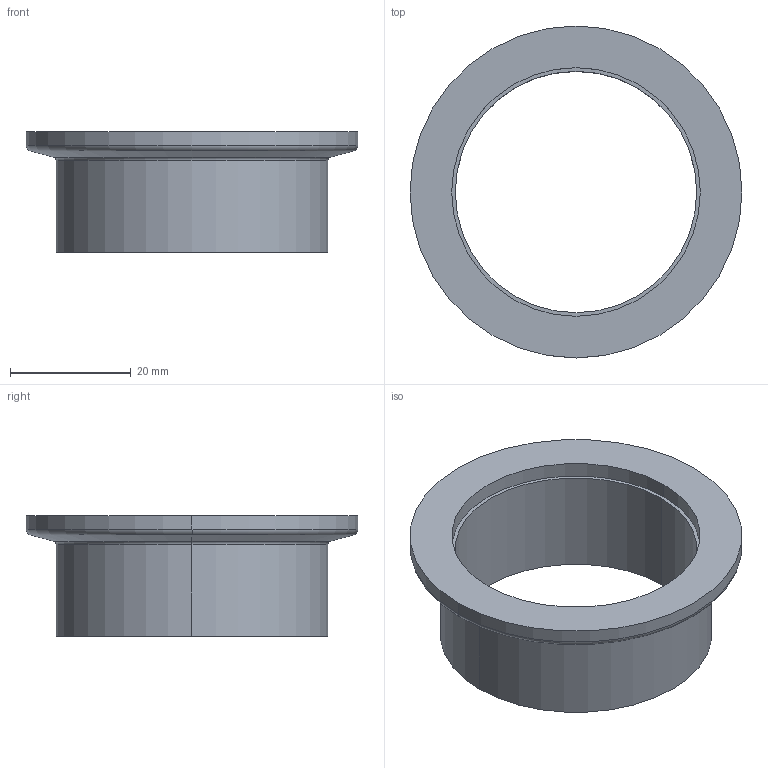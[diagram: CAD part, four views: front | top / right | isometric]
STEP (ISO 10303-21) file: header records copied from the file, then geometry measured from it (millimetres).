
FILE_DESCRIPTION (( 'STEP AP214' ), '1' );
FILE_NAME ('W3KF40.STEP', '2019-03-23T08:53:29', ( '' ), ( '' ), 'SwSTEP 2.0', 'SolidWorks 2018', '' );
FILE_SCHEMA (( 'AUTOMOTIVE_DESIGN' ));
Length unit declared in the file: millimetre
Products named in the file (1): W3KF40
Bounding box: 55 x 55 x 20 mm (x, y, z)
Volume: 9335.7 mm3; surface area: 7462.7 mm2
Topology: 1 solids, 1 shells, 17 faces, 34 edges, 20 vertices
Faces by surface type: cylinder 8, torus 4, plane 3, cone 2
Entity records: 486 total; most frequent: DIRECTION 94, CARTESIAN_POINT 72, ORIENTED_EDGE 68, AXIS2_PLACEMENT_3D 42, EDGE_CURVE 34, CIRCLE 24, VERTEX_POINT 20, EDGE_LOOP 20
